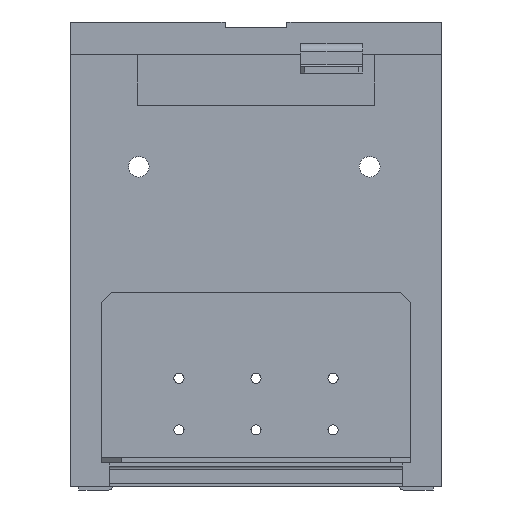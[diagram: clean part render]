
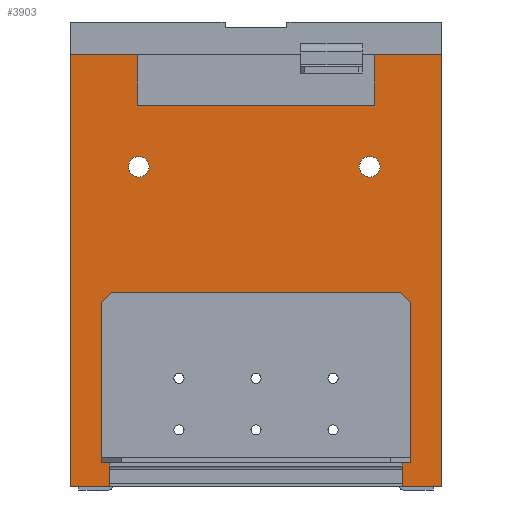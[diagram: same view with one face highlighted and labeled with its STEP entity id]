
A CAD part, left-side view. The second image highlights one B-rep face of the part: STEP entity #3903.
In plain terms, the highlighted planar face has unit normal (-1, 0, 0).
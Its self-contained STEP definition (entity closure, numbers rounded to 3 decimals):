
#1263=AXIS2_PLACEMENT_3D('Circle Axis2P3D',#1261,#1262,$) ;
#1289=AXIS2_PLACEMENT_3D('Circle Axis2P3D',#1287,#1288,$) ;
#1320=AXIS2_PLACEMENT_3D('Circle Axis2P3D',#1318,#1319,$) ;
#1346=AXIS2_PLACEMENT_3D('Circle Axis2P3D',#1344,#1345,$) ;
#3849=AXIS2_PLACEMENT_3D('Plane Axis2P3D',#3846,#3847,#3848) ;
#341=CARTESIAN_POINT('Vertex',(-310.9,-90.,209.18)) ;
#344=CARTESIAN_POINT('Line Origine',(-310.9,-90.,104.59)) ;
#348=CARTESIAN_POINT('Vertex',(-310.9,-90.,0.)) ;
#650=CARTESIAN_POINT('Vertex',(-310.9,71.,0.)) ;
#653=CARTESIAN_POINT('Line Origine',(-310.9,80.5,0.)) ;
#657=CARTESIAN_POINT('Vertex',(-310.9,90.,0.)) ;
#763=CARTESIAN_POINT('Vertex',(-310.9,71.,1.5)) ;
#766=CARTESIAN_POINT('Line Origine',(-310.9,71.,0.75)) ;
#907=CARTESIAN_POINT('Line Origine',(-310.9,0.,1.5)) ;
#911=CARTESIAN_POINT('Vertex',(-310.9,-71.,1.5)) ;
#949=CARTESIAN_POINT('Vertex',(-310.9,-71.,0.)) ;
#952=CARTESIAN_POINT('Line Origine',(-310.9,-71.,0.75)) ;
#982=CARTESIAN_POINT('Vertex',(-310.9,57.4,209.18)) ;
#985=CARTESIAN_POINT('Line Origine',(-310.9,57.4,196.93)) ;
#989=CARTESIAN_POINT('Vertex',(-310.9,57.4,184.68)) ;
#1040=CARTESIAN_POINT('Line Origine',(-310.9,0.,184.68)) ;
#1044=CARTESIAN_POINT('Vertex',(-310.9,-57.4,184.68)) ;
#1258=CARTESIAN_POINT('Vertex',(-310.9,56.759,159.9)) ;
#1261=CARTESIAN_POINT('Axis2P3D Location',(-310.9,56.759,154.9)) ;
#1265=CARTESIAN_POINT('Vertex',(-310.9,56.759,149.9)) ;
#1287=CARTESIAN_POINT('Axis2P3D Location',(-310.9,56.759,154.9)) ;
#1315=CARTESIAN_POINT('Vertex',(-310.9,-55.059,159.9)) ;
#1318=CARTESIAN_POINT('Axis2P3D Location',(-310.9,-55.059,154.9)) ;
#1322=CARTESIAN_POINT('Vertex',(-310.9,-55.059,149.9)) ;
#1344=CARTESIAN_POINT('Axis2P3D Location',(-310.9,-55.059,154.9)) ;
#1722=CARTESIAN_POINT('Vertex',(-310.9,75.,11.6)) ;
#1725=CARTESIAN_POINT('Line Origine',(-310.9,0.,11.6)) ;
#1729=CARTESIAN_POINT('Vertex',(-310.9,-75.,11.6)) ;
#1898=CARTESIAN_POINT('Vertex',(-310.9,-75.,89.1)) ;
#1922=CARTESIAN_POINT('Line Origine',(-310.9,-75.,50.35)) ;
#3050=CARTESIAN_POINT('Vertex',(-310.9,-70.,94.1)) ;
#3053=CARTESIAN_POINT('Line Origine',(-310.9,0.,94.1)) ;
#3057=CARTESIAN_POINT('Vertex',(-310.9,70.,94.1)) ;
#3077=CARTESIAN_POINT('Line Origine',(-310.9,-72.5,91.6)) ;
#3089=CARTESIAN_POINT('Line Origine',(-310.9,75.,50.35)) ;
#3093=CARTESIAN_POINT('Vertex',(-310.9,75.,89.1)) ;
#3115=CARTESIAN_POINT('Line Origine',(-310.9,72.5,91.6)) ;
#3597=CARTESIAN_POINT('Line Origine',(-310.9,-57.4,196.93)) ;
#3601=CARTESIAN_POINT('Vertex',(-310.9,-57.4,209.18)) ;
#3846=CARTESIAN_POINT('Axis2P3D Location',(-310.9,0.,209.18)) ;
#3851=CARTESIAN_POINT('Line Origine',(-310.9,73.7,209.18)) ;
#3855=CARTESIAN_POINT('Vertex',(-310.9,90.,209.18)) ;
#3858=CARTESIAN_POINT('Line Origine',(-310.9,90.,104.59)) ;
#3863=CARTESIAN_POINT('Line Origine',(-310.9,-80.5,0.)) ;
#3868=CARTESIAN_POINT('Line Origine',(-310.9,-73.7,209.18)) ;
#345=DIRECTION('Vector Direction',(0.,0.,-1.)) ;
#654=DIRECTION('Vector Direction',(0.,1.,0.)) ;
#767=DIRECTION('Vector Direction',(0.,0.,1.)) ;
#908=DIRECTION('Vector Direction',(0.,1.,0.)) ;
#953=DIRECTION('Vector Direction',(0.,0.,1.)) ;
#986=DIRECTION('Vector Direction',(0.,0.,-1.)) ;
#1041=DIRECTION('Vector Direction',(0.,1.,0.)) ;
#1262=DIRECTION('Axis2P3D Direction',(-1.,0.,0.)) ;
#1288=DIRECTION('Axis2P3D Direction',(-1.,0.,0.)) ;
#1319=DIRECTION('Axis2P3D Direction',(-1.,0.,0.)) ;
#1345=DIRECTION('Axis2P3D Direction',(-1.,0.,0.)) ;
#1726=DIRECTION('Vector Direction',(0.,1.,0.)) ;
#1923=DIRECTION('Vector Direction',(0.,0.,-1.)) ;
#3054=DIRECTION('Vector Direction',(0.,1.,0.)) ;
#3078=DIRECTION('Vector Direction',(0.,-0.707,-0.707)) ;
#3090=DIRECTION('Vector Direction',(0.,0.,-1.)) ;
#3116=DIRECTION('Vector Direction',(0.,0.707,-0.707)) ;
#3598=DIRECTION('Vector Direction',(0.,0.,1.)) ;
#3847=DIRECTION('Axis2P3D Direction',(1.,-0.,0.)) ;
#3848=DIRECTION('Axis2P3D XDirection',(0.,0.,-1.)) ;
#3852=DIRECTION('Vector Direction',(0.,1.,0.)) ;
#3859=DIRECTION('Vector Direction',(0.,0.,-1.)) ;
#3864=DIRECTION('Vector Direction',(0.,1.,0.)) ;
#3869=DIRECTION('Vector Direction',(0.,1.,0.)) ;
#346=VECTOR('Line Direction',#345,1.) ;
#655=VECTOR('Line Direction',#654,1.) ;
#768=VECTOR('Line Direction',#767,1.) ;
#909=VECTOR('Line Direction',#908,1.) ;
#954=VECTOR('Line Direction',#953,1.) ;
#987=VECTOR('Line Direction',#986,1.) ;
#1042=VECTOR('Line Direction',#1041,1.) ;
#1727=VECTOR('Line Direction',#1726,1.) ;
#1924=VECTOR('Line Direction',#1923,1.) ;
#3055=VECTOR('Line Direction',#3054,1.) ;
#3079=VECTOR('Line Direction',#3078,1.) ;
#3091=VECTOR('Line Direction',#3090,1.) ;
#3117=VECTOR('Line Direction',#3116,1.) ;
#3599=VECTOR('Line Direction',#3598,1.) ;
#3853=VECTOR('Line Direction',#3852,1.) ;
#3860=VECTOR('Line Direction',#3859,1.) ;
#3865=VECTOR('Line Direction',#3864,1.) ;
#3870=VECTOR('Line Direction',#3869,1.) ;
#3874=ORIENTED_EDGE('',*,*,#3603,.T.) ;
#3875=ORIENTED_EDGE('',*,*,#1046,.T.) ;
#3876=ORIENTED_EDGE('',*,*,#991,.T.) ;
#3877=ORIENTED_EDGE('',*,*,#3857,.T.) ;
#3878=ORIENTED_EDGE('',*,*,#3862,.F.) ;
#3879=ORIENTED_EDGE('',*,*,#659,.F.) ;
#3880=ORIENTED_EDGE('',*,*,#770,.T.) ;
#3881=ORIENTED_EDGE('',*,*,#913,.F.) ;
#3882=ORIENTED_EDGE('',*,*,#956,.F.) ;
#3883=ORIENTED_EDGE('',*,*,#3867,.F.) ;
#3884=ORIENTED_EDGE('',*,*,#350,.T.) ;
#3885=ORIENTED_EDGE('',*,*,#3872,.T.) ;
#3888=ORIENTED_EDGE('',*,*,#3059,.F.) ;
#3889=ORIENTED_EDGE('',*,*,#3081,.F.) ;
#3890=ORIENTED_EDGE('',*,*,#1926,.T.) ;
#3891=ORIENTED_EDGE('',*,*,#1731,.T.) ;
#3892=ORIENTED_EDGE('',*,*,#3095,.F.) ;
#3893=ORIENTED_EDGE('',*,*,#3119,.F.) ;
#3896=ORIENTED_EDGE('',*,*,#1291,.T.) ;
#3897=ORIENTED_EDGE('',*,*,#1267,.T.) ;
#3900=ORIENTED_EDGE('',*,*,#1348,.T.) ;
#3901=ORIENTED_EDGE('',*,*,#1324,.T.) ;
#3894=FACE_BOUND('',#3887,.T.) ;
#3898=FACE_BOUND('',#3895,.T.) ;
#3902=FACE_BOUND('',#3899,.T.) ;
#3903=ADVANCED_FACE('\X2\6A217EC4\X0\',(#3886,#3894,#3898,#3902),#3850,.F.) ;
#1264=CIRCLE('generated circle',#1263,5.) ;
#1290=CIRCLE('generated circle',#1289,5.) ;
#1321=CIRCLE('generated circle',#1320,5.) ;
#1347=CIRCLE('generated circle',#1346,5.) ;
#350=EDGE_CURVE('',#349,#342,#347,.F.) ;
#659=EDGE_CURVE('',#651,#658,#656,.T.) ;
#770=EDGE_CURVE('',#651,#764,#769,.T.) ;
#913=EDGE_CURVE('',#912,#764,#910,.T.) ;
#956=EDGE_CURVE('',#950,#912,#955,.T.) ;
#991=EDGE_CURVE('',#990,#983,#988,.F.) ;
#1046=EDGE_CURVE('',#1045,#990,#1043,.T.) ;
#1267=EDGE_CURVE('',#1266,#1259,#1264,.F.) ;
#1291=EDGE_CURVE('',#1259,#1266,#1290,.F.) ;
#1324=EDGE_CURVE('',#1323,#1316,#1321,.F.) ;
#1348=EDGE_CURVE('',#1316,#1323,#1347,.F.) ;
#1731=EDGE_CURVE('',#1730,#1723,#1728,.T.) ;
#1926=EDGE_CURVE('',#1899,#1730,#1925,.T.) ;
#3059=EDGE_CURVE('',#3051,#3058,#3056,.T.) ;
#3081=EDGE_CURVE('',#1899,#3051,#3080,.F.) ;
#3095=EDGE_CURVE('',#3094,#1723,#3092,.T.) ;
#3119=EDGE_CURVE('',#3058,#3094,#3118,.T.) ;
#3603=EDGE_CURVE('',#3602,#1045,#3600,.F.) ;
#3857=EDGE_CURVE('',#983,#3856,#3854,.T.) ;
#3862=EDGE_CURVE('',#658,#3856,#3861,.F.) ;
#3867=EDGE_CURVE('',#349,#950,#3866,.T.) ;
#3872=EDGE_CURVE('',#342,#3602,#3871,.T.) ;
#3873=EDGE_LOOP('',(#3874,#3875,#3876,#3877,#3878,#3879,#3880,#3881,#3882,#3883,#3884,#3885)) ;
#3887=EDGE_LOOP('',(#3888,#3889,#3890,#3891,#3892,#3893)) ;
#3895=EDGE_LOOP('',(#3896,#3897)) ;
#3899=EDGE_LOOP('',(#3900,#3901)) ;
#3886=FACE_OUTER_BOUND('',#3873,.T.) ;
#347=LINE('Line',#344,#346) ;
#656=LINE('Line',#653,#655) ;
#769=LINE('Line',#766,#768) ;
#910=LINE('Line',#907,#909) ;
#955=LINE('Line',#952,#954) ;
#988=LINE('Line',#985,#987) ;
#1043=LINE('Line',#1040,#1042) ;
#1728=LINE('Line',#1725,#1727) ;
#1925=LINE('Line',#1922,#1924) ;
#3056=LINE('Line',#3053,#3055) ;
#3080=LINE('Line',#3077,#3079) ;
#3092=LINE('Line',#3089,#3091) ;
#3118=LINE('Line',#3115,#3117) ;
#3600=LINE('Line',#3597,#3599) ;
#3854=LINE('Line',#3851,#3853) ;
#3861=LINE('Line',#3858,#3860) ;
#3866=LINE('Line',#3863,#3865) ;
#3871=LINE('Line',#3868,#3870) ;
#3850=PLANE('',#3849) ;
#342=VERTEX_POINT('',#341) ;
#349=VERTEX_POINT('',#348) ;
#651=VERTEX_POINT('',#650) ;
#658=VERTEX_POINT('',#657) ;
#764=VERTEX_POINT('',#763) ;
#912=VERTEX_POINT('',#911) ;
#950=VERTEX_POINT('',#949) ;
#983=VERTEX_POINT('',#982) ;
#990=VERTEX_POINT('',#989) ;
#1045=VERTEX_POINT('',#1044) ;
#1259=VERTEX_POINT('',#1258) ;
#1266=VERTEX_POINT('',#1265) ;
#1316=VERTEX_POINT('',#1315) ;
#1323=VERTEX_POINT('',#1322) ;
#1723=VERTEX_POINT('',#1722) ;
#1730=VERTEX_POINT('',#1729) ;
#1899=VERTEX_POINT('',#1898) ;
#3051=VERTEX_POINT('',#3050) ;
#3058=VERTEX_POINT('',#3057) ;
#3094=VERTEX_POINT('',#3093) ;
#3602=VERTEX_POINT('',#3601) ;
#3856=VERTEX_POINT('',#3855) ;
